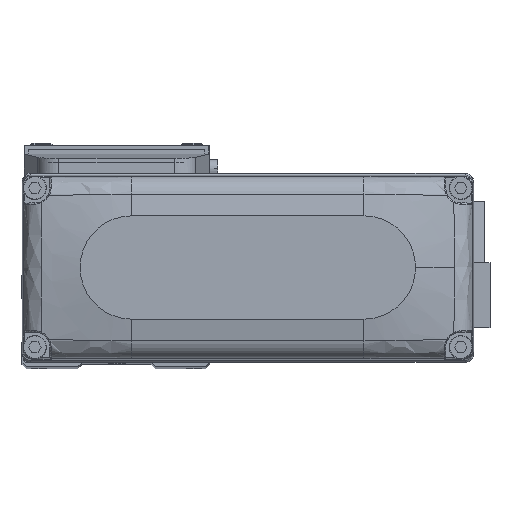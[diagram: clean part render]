
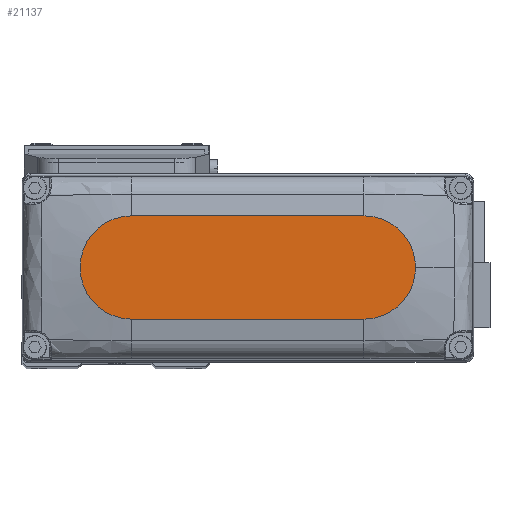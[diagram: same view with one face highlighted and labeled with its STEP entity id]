
A CAD part, top view. The second image highlights one B-rep face of the part: STEP entity #21137.
In plain terms, the highlighted planar face has unit normal (0, 0, 1).
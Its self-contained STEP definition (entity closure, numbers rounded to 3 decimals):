
#509 = CARTESIAN_POINT ( 'NONE',  ( 27., 12., 25. ) ) ;
#2308 = ORIENTED_EDGE ( 'NONE', *, *, #22661, .T. ) ;
#2877 = CARTESIAN_POINT ( 'NONE',  ( 39., 0., 25. ) ) ;
#2882 = CARTESIAN_POINT ( 'NONE',  ( 27., 0., 25. ) ) ;
#5190 = EDGE_LOOP ( 'NONE', ( #10870, #2308, #22810, #11720, #37679 ) ) ;
#6765 = AXIS2_PLACEMENT_3D ( 'NONE', #23036, #34616, #28720 ) ;
#8274 = CARTESIAN_POINT ( 'NONE',  ( -27., 0., 25. ) ) ;
#8374 = CARTESIAN_POINT ( 'NONE',  ( -27., 12., 25. ) ) ;
#9077 = CARTESIAN_POINT ( 'NONE',  ( -27., 12., 25. ) ) ;
#10793 = LINE ( 'NONE', #14119, #13667 ) ;
#10844 = DIRECTION ( 'NONE',  ( 0., 0., 1. ) ) ;
#10870 = ORIENTED_EDGE ( 'NONE', *, *, #23630, .T. ) ;
#11704 = EDGE_CURVE ( 'NONE', #24550, #34469, #22685, .T. ) ;
#11720 = ORIENTED_EDGE ( 'NONE', *, *, #11704, .T. ) ;
#13632 = VERTEX_POINT ( 'NONE', #9077 ) ;
#13667 = VECTOR ( 'NONE', #34144, 1000. ) ;
#14119 = CARTESIAN_POINT ( 'NONE',  ( -27., -12., 25. ) ) ;
#14276 = VERTEX_POINT ( 'NONE', #29201 ) ;
#14835 = DIRECTION ( 'NONE',  ( 1., 0., 0. ) ) ;
#16146 = CIRCLE ( 'NONE', #38074, 12. ) ;
#17583 = LINE ( 'NONE', #8374, #25610 ) ;
#18719 = EDGE_CURVE ( 'NONE', #34469, #34561, #23684, .T. ) ;
#20675 = FACE_OUTER_BOUND ( 'NONE', #5190, .T. ) ;
#20866 = CARTESIAN_POINT ( 'NONE',  ( 0., 0., 25. ) ) ;
#21137 = ADVANCED_FACE ( 'NONE', ( #20675 ), #26746, .T. ) ;
#22661 = EDGE_CURVE ( 'NONE', #13632, #14276, #16146, .T. ) ;
#22685 = CIRCLE ( 'NONE', #27040, 12. ) ;
#22810 = ORIENTED_EDGE ( 'NONE', *, *, #22971, .T. ) ;
#22971 = EDGE_CURVE ( 'NONE', #14276, #24550, #10793, .T. ) ;
#23036 = CARTESIAN_POINT ( 'NONE',  ( 27., 0., 25. ) ) ;
#23292 = DIRECTION ( 'NONE',  ( -1., 0., 0. ) ) ;
#23630 = EDGE_CURVE ( 'NONE', #34561, #13632, #17583, .T. ) ;
#23684 = CIRCLE ( 'NONE', #6765, 12. ) ;
#23809 = DIRECTION ( 'NONE',  ( 0., 0., 1. ) ) ;
#24463 = CARTESIAN_POINT ( 'NONE',  ( 27., -12., 25. ) ) ;
#24550 = VERTEX_POINT ( 'NONE', #24463 ) ;
#25610 = VECTOR ( 'NONE', #23292, 1000. ) ;
#26746 = PLANE ( 'NONE',  #32126 ) ;
#27040 = AXIS2_PLACEMENT_3D ( 'NONE', #2882, #29942, #14835 ) ;
#28720 = DIRECTION ( 'NONE',  ( 1., 0., 0. ) ) ;
#29201 = CARTESIAN_POINT ( 'NONE',  ( -27., -12., 25. ) ) ;
#29942 = DIRECTION ( 'NONE',  ( 0., 0., 1. ) ) ;
#32126 = AXIS2_PLACEMENT_3D ( 'NONE', #20866, #23809, #32836 ) ;
#32836 = DIRECTION ( 'NONE',  ( 1., 0., 0. ) ) ;
#34144 = DIRECTION ( 'NONE',  ( 1., 0., 0. ) ) ;
#34469 = VERTEX_POINT ( 'NONE', #2877 ) ;
#34561 = VERTEX_POINT ( 'NONE', #509 ) ;
#34616 = DIRECTION ( 'NONE',  ( 0., 0., 1. ) ) ;
#37679 = ORIENTED_EDGE ( 'NONE', *, *, #18719, .T. ) ;
#37711 = DIRECTION ( 'NONE',  ( 1., 0., 0. ) ) ;
#38074 = AXIS2_PLACEMENT_3D ( 'NONE', #8274, #10844, #37711 ) ;
